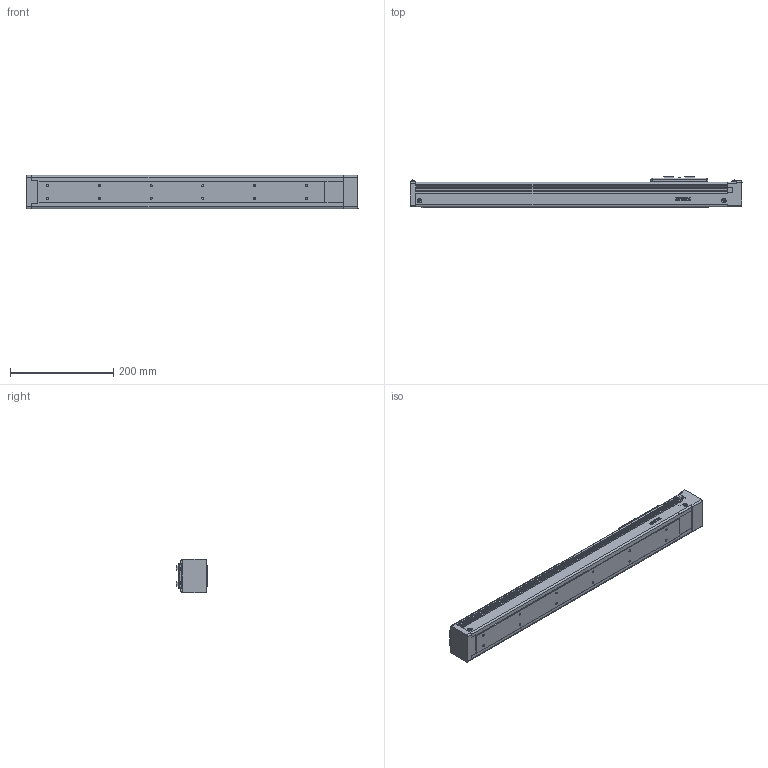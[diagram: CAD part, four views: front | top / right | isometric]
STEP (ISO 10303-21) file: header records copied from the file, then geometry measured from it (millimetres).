
FILE_DESCRIPTION(/* description */ (''),/* implementation_level */ '2;1');
FILE_NAME(/* name */ 'D:\混合母檔20191031\混和母檔\混和母檔\bin\Debug\Download\3D\KE6510C-450AF0\KE6510C-450AF0.stp',/* time_stamp */ '2019-11-04T13:56:59+08:00',/* author */ ('user'),/* organization */ (''),/* preprocessor_version */ 'ST-DEVELOPER v16.13',/* originating_system */ 'Autodesk Inventor 2018',/* authorisation */ '');
FILE_SCHEMA (('AUTOMOTIVE_DESIGN { 1 0 10303 214 3 1 1 }'));
Length unit declared in the file: millimetre
Products named in the file (3): KE6510C-450AF0; KE65-F0-BP; KE65-SL
Assembly tree (2 placements, depth 2):
  KE6510C-450AF0
    KE65-F0-BP
    KE65-SL
Bounding box: 642 x 60 x 64.57 mm (x, y, z)
Volume: 1898872.4 mm3; surface area: 206658.1 mm2
Topology: 2 solids, 17 shells, 1088 faces, 2948 edges, 1932 vertices
Faces by surface type: plane 581, cone 166, cylinder 141, bspline 136, torus 54, sphere 10
Full cylindrical faces by diameter (mm): 2.459 x8, 2.729 x4, 3 x4, 3.242 x8, 3.5 x6, 3.571 x4, 4.134 x12, 4.2 x4, 6 x1, 8 x1, 8.4 x8, 30 x1
Entity records: 39543 total; most frequent: CARTESIAN_POINT 12931, ORIENTED_EDGE 5460, DIRECTION 4930, EDGE_CURVE 2730, VERTEX_POINT 1857, LINE 1652, VECTOR 1652, AXIS2_PLACEMENT_3D 1639
